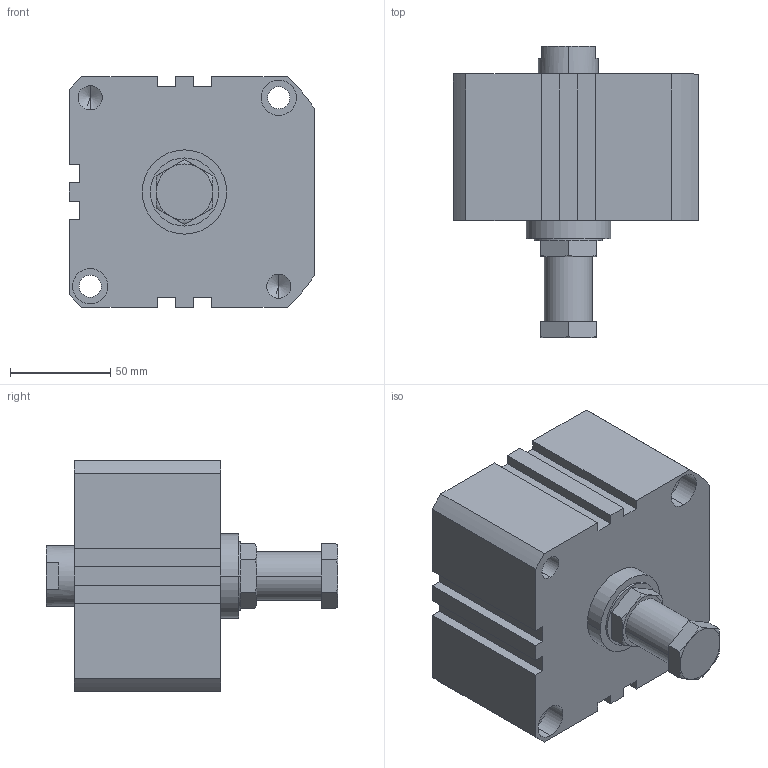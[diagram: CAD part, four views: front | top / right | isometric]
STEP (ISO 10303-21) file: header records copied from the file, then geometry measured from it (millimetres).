
FILE_DESCRIPTION (( 'STEP AP203' ), '1' );
FILE_NAME ('XGA2-100-10.STEP', '2016-05-24T02:41:55', ( '' ), ( '' ), 'SwSTEP 2.0', 'SolidWorks 2014', '' );
FILE_SCHEMA (( 'CONFIG_CONTROL_DESIGN' ));
Length unit declared in the file: millimetre
Products named in the file (3): XGA2-100-10; XG#2-100-10; X#A2-100-H
Assembly tree (2 placements, depth 2):
  XGA2-100-10
    XG#2-100-10
    X#A2-100-H
Bounding box: 122.5 x 145.5 x 115 mm (x, y, z)
Volume: 984214.1 mm3; surface area: 88978.8 mm2
Topology: 2 solids, 2 shells, 147 faces, 357 edges, 222 vertices
Faces by surface type: plane 64, cylinder 53, cone 18, torus 12
Entity records: 4761 total; most frequent: CARTESIAN_POINT 1005, DIRECTION 754, ORIENTED_EDGE 686, EDGE_CURVE 343, AXIS2_PLACEMENT_3D 283, VERTEX_POINT 222, VECTOR 188, LINE 188
